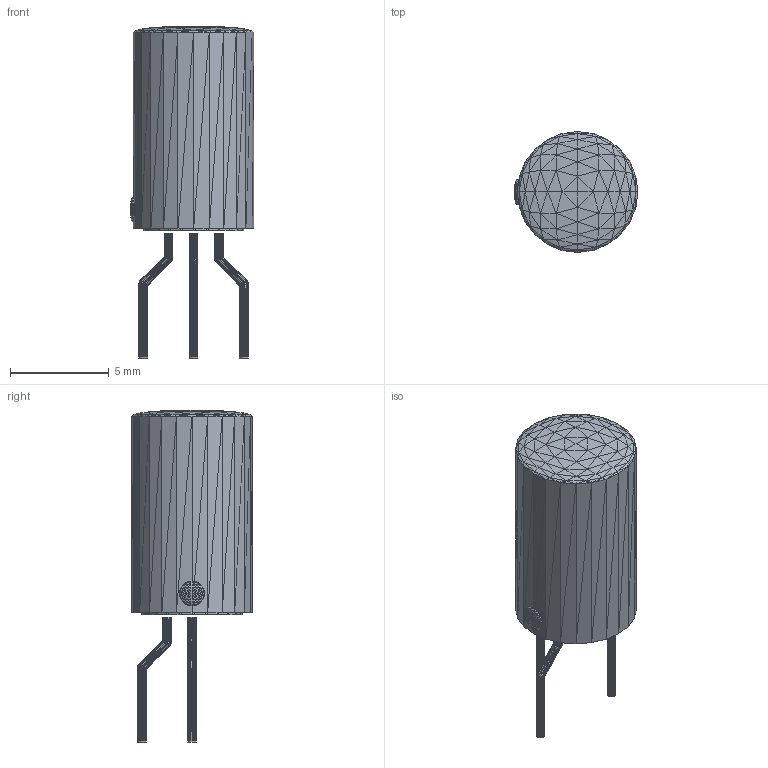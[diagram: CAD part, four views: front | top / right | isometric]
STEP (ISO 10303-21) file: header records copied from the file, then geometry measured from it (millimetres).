
FILE_DESCRIPTION(('HOOPS Exchange Step'),'2;1');
FILE_NAME('***.stp');
FILE_SCHEMA( ('AP242_MANAGED_MODEL_BASED_3D_ENGINEERING_MIM_LF {1 0 10303 442 1 1 4 }') );
Length unit declared in the file: inch
Products named in the file (28): TO-1_DOT_2; TO-1_DOT_3; TO-1_DOT_4; TO-1_DOT_5; TO-1_DOT_6; TO-1_DOT_7; TO-1_DOT_8; TO-1_DOT_9; TO-1_DOT_10; TO-1_DOT_11; TO-1_DOT_12; TO-1_DOT_13; TO-1_DOT_14; TO-1_DOT_15; TO-1_DOT_16; TO-1_DOT_17; TO-1_DOT_18; TO-1_DOT_19; TO-1_DOT_20; TO-1_DOT_21; TO-1_DOT_22; TO-1_DOT_23; TO-1_DOT_24; TO-1_DOT_25; TO-1_DOT_26; TO-1_DOT_27; TO-1_DOT_28; TO-1_DOT
Assembly tree (27 placements, depth 2):
  TO-1_DOT
    TO-1_DOT_2
    TO-1_DOT_3
    TO-1_DOT_4
    TO-1_DOT_5
    TO-1_DOT_6
    TO-1_DOT_7
    TO-1_DOT_8
    TO-1_DOT_9
    TO-1_DOT_10
    TO-1_DOT_11
    TO-1_DOT_12
    TO-1_DOT_13
    TO-1_DOT_14
    TO-1_DOT_15
    TO-1_DOT_16
    TO-1_DOT_17
    TO-1_DOT_18
    TO-1_DOT_19
    TO-1_DOT_20
    TO-1_DOT_21
    TO-1_DOT_22
    TO-1_DOT_23
    TO-1_DOT_24
    TO-1_DOT_25
    TO-1_DOT_26
    TO-1_DOT_27
    TO-1_DOT_28
Bounding box: 6.25 x 6.1 x 16.77 mm (x, y, z)
Volume: 13.1 mm3; surface area: 392.2 mm2
Topology: 11 solids, 27 shells, 3360 faces, 5232 edges, 1910 vertices
Faces by surface type: plane 3360
Entity records: 68137 total; most frequent: DIRECTION 12064, CARTESIAN_POINT 10558, ORIENTED_EDGE 10080, VECTOR 5232, LINE 5232, EDGE_CURVE 5232, AXIS2_PLACEMENT_3D 3416, PLANE 3360
